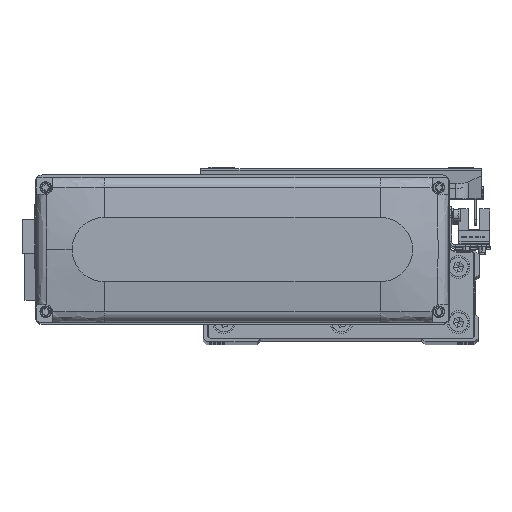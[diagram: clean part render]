
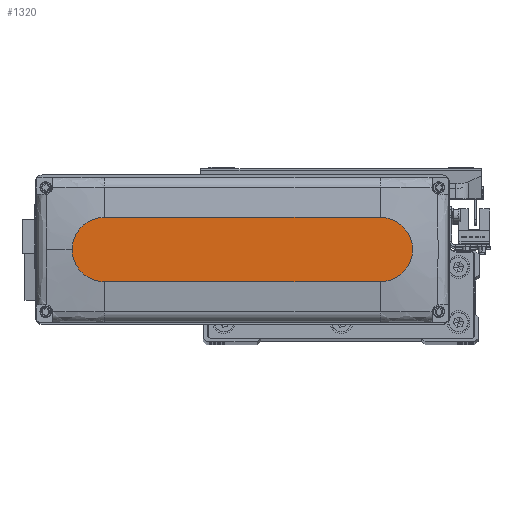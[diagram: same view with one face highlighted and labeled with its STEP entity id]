
A CAD part, top view. The second image highlights one B-rep face of the part: STEP entity #1320.
In plain terms, the highlighted planar face has unit normal (0, 0, 1).
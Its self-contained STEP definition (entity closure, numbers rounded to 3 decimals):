
#1320 = ADVANCED_FACE ( 'NONE', ( #41371 ), #10087, .T. ) ;
#4576 = CARTESIAN_POINT ( 'NONE',  ( 60., 14., 28.5 ) ) ;
#6220 = AXIS2_PLACEMENT_3D ( 'NONE', #24017, #37928, #6635 ) ;
#6353 = CARTESIAN_POINT ( 'NONE',  ( -60., -14., 28.5 ) ) ;
#6635 = DIRECTION ( 'NONE',  ( 1., 0., 0. ) ) ;
#6786 = CARTESIAN_POINT ( 'NONE',  ( 60., -14., 28.5 ) ) ;
#7599 = DIRECTION ( 'NONE',  ( 0., 0., 1. ) ) ;
#8611 = ORIENTED_EDGE ( 'NONE', *, *, #29876, .T. ) ;
#8774 = DIRECTION ( 'NONE',  ( 0., 0., 1. ) ) ;
#8845 = ORIENTED_EDGE ( 'NONE', *, *, #39974, .T. ) ;
#9661 = DIRECTION ( 'NONE',  ( -1., 0., 0. ) ) ;
#10087 = PLANE ( 'NONE',  #6220 ) ;
#10116 = CARTESIAN_POINT ( 'NONE',  ( -60., -14., 28.5 ) ) ;
#11710 = DIRECTION ( 'NONE',  ( 0., 0., 1. ) ) ;
#11752 = AXIS2_PLACEMENT_3D ( 'NONE', #40061, #8774, #22728 ) ;
#12163 = ORIENTED_EDGE ( 'NONE', *, *, #37943, .T. ) ;
#15160 = AXIS2_PLACEMENT_3D ( 'NONE', #42991, #11710, #25630 ) ;
#15363 = ORIENTED_EDGE ( 'NONE', *, *, #33731, .T. ) ;
#17088 = CARTESIAN_POINT ( 'NONE',  ( -60., 14., 28.5 ) ) ;
#18256 = VECTOR ( 'NONE', #9661, 1000. ) ;
#18686 = VERTEX_POINT ( 'NONE', #17088 ) ;
#19542 = CIRCLE ( 'NONE', #45034, 14. ) ;
#19897 = VERTEX_POINT ( 'NONE', #30460 ) ;
#21557 = DIRECTION ( 'NONE',  ( 1., 0., 0. ) ) ;
#22034 = ORIENTED_EDGE ( 'NONE', *, *, #29973, .T. ) ;
#22728 = DIRECTION ( 'NONE',  ( 1., 0., 0. ) ) ;
#24017 = CARTESIAN_POINT ( 'NONE',  ( 0., 0., 28.5 ) ) ;
#24043 = DIRECTION ( 'NONE',  ( 1., 0., 0. ) ) ;
#25630 = DIRECTION ( 'NONE',  ( 1., 0., 0. ) ) ;
#27011 = LINE ( 'NONE', #40948, #18256 ) ;
#27217 = VERTEX_POINT ( 'NONE', #4576 ) ;
#29876 = EDGE_CURVE ( 'NONE', #19897, #27217, #19542, .T. ) ;
#29973 = EDGE_CURVE ( 'NONE', #32870, #19897, #34844, .T. ) ;
#30047 = VECTOR ( 'NONE', #24043, 1000. ) ;
#30460 = CARTESIAN_POINT ( 'NONE',  ( 74., 0., 28.5 ) ) ;
#30653 = VERTEX_POINT ( 'NONE', #6353 ) ;
#31441 = CIRCLE ( 'NONE', #11752, 14. ) ;
#32870 = VERTEX_POINT ( 'NONE', #6786 ) ;
#33731 = EDGE_CURVE ( 'NONE', #27217, #18686, #27011, .T. ) ;
#34844 = CIRCLE ( 'NONE', #15160, 14. ) ;
#37928 = DIRECTION ( 'NONE',  ( 0., 0., 1. ) ) ;
#37943 = EDGE_CURVE ( 'NONE', #18686, #30653, #31441, .T. ) ;
#38888 = CARTESIAN_POINT ( 'NONE',  ( 60., 0., 28.5 ) ) ;
#39974 = EDGE_CURVE ( 'NONE', #30653, #32870, #41399, .T. ) ;
#40061 = CARTESIAN_POINT ( 'NONE',  ( -60., 0., 28.5 ) ) ;
#40948 = CARTESIAN_POINT ( 'NONE',  ( -60., 14., 28.5 ) ) ;
#41371 = FACE_OUTER_BOUND ( 'NONE', #41436, .T. ) ;
#41399 = LINE ( 'NONE', #10116, #30047 ) ;
#41436 = EDGE_LOOP ( 'NONE', ( #15363, #12163, #8845, #22034, #8611 ) ) ;
#42991 = CARTESIAN_POINT ( 'NONE',  ( 60., 0., 28.5 ) ) ;
#45034 = AXIS2_PLACEMENT_3D ( 'NONE', #38888, #7599, #21557 ) ;
